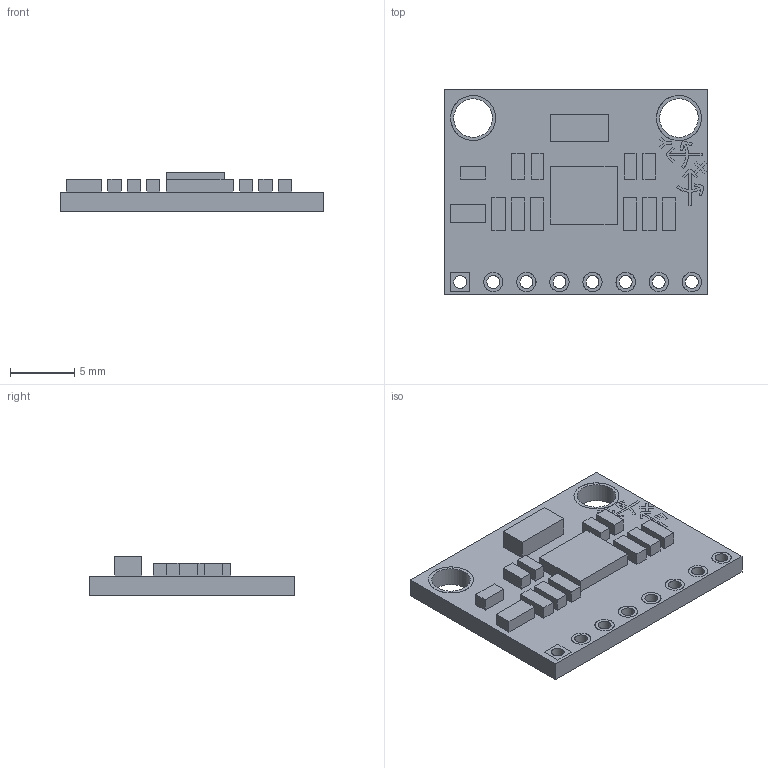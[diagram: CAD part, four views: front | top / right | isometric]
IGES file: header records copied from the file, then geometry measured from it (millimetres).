
Global section: file name: MPU_6050; native system: unknown; preprocessor: unknown; author: nicola.cugola; organization: unknown; date: 20190504.104831; units: millimetre
Bounding box: 20.5 x 16 x 3 mm (x, y, z)
Volume: 528.5 mm3; surface area: 1261.6 mm2
Topology: 29 solids, 29 shells, 296 faces, 702 edges, 468 vertices
Faces by surface type: bspline 296
